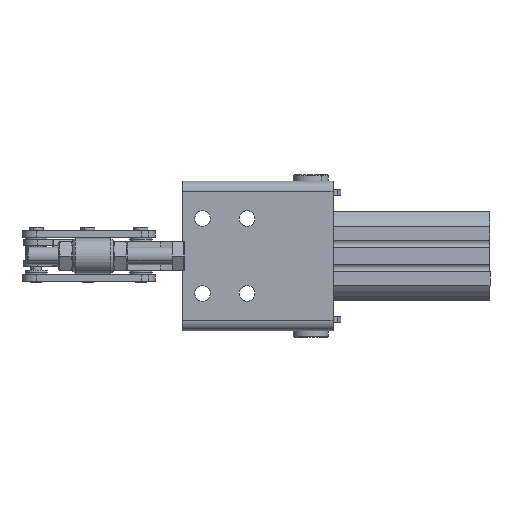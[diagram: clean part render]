
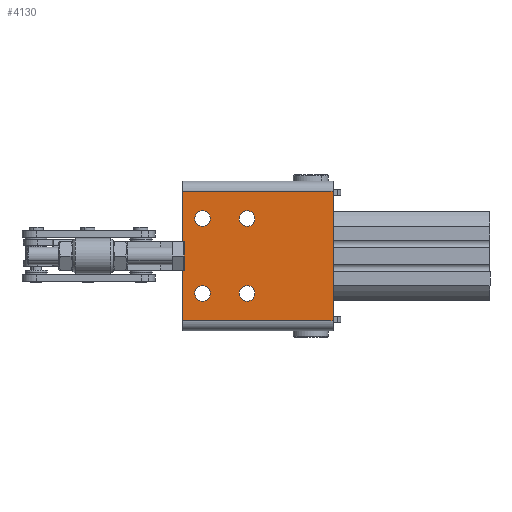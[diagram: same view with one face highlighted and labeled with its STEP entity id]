
A CAD part, left-side view. The second image highlights one B-rep face of the part: STEP entity #4130.
In plain terms, the highlighted planar face has unit normal (-1, 0, 0) as drawn and (0, -1, 0) by its records, which use the part's own axes.
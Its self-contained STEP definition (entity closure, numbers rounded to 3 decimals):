
#5 = CIRCLE ( 'NONE', #6698, 3.5 ) ;
#75 = CARTESIAN_POINT ( 'NONE',  ( -16.75, -3., -9. ) ) ;
#115 = CIRCLE ( 'NONE', #1582, 3.5 ) ;
#306 = CARTESIAN_POINT ( 'NONE',  ( 16.75, -3., -32.5 ) ) ;
#438 = DIRECTION ( 'NONE',  ( 0., 0., 1. ) ) ;
#517 = DIRECTION ( 'NONE',  ( 0., 0., 1. ) ) ;
#527 = LINE ( 'NONE', #3020, #12181 ) ;
#550 = ORIENTED_EDGE ( 'NONE', *, *, #8475, .T. ) ;
#697 = ORIENTED_EDGE ( 'NONE', *, *, #6566, .T. ) ;
#715 = ORIENTED_EDGE ( 'NONE', *, *, #13560, .T. ) ;
#781 = LINE ( 'NONE', #16510, #16495 ) ;
#920 = CARTESIAN_POINT ( 'NONE',  ( -29., -3., 0. ) ) ;
#981 = ORIENTED_EDGE ( 'NONE', *, *, #11746, .F. ) ;
#1090 = DIRECTION ( 'NONE',  ( 0., 1., 0. ) ) ;
#1470 = VERTEX_POINT ( 'NONE', #10534 ) ;
#1493 = CARTESIAN_POINT ( 'NONE',  ( 29., -3., -67.5 ) ) ;
#1582 = AXIS2_PLACEMENT_3D ( 'NONE', #18762, #9614, #517 ) ;
#1617 = DIRECTION ( 'NONE',  ( 0., 0., 1. ) ) ;
#1968 = CIRCLE ( 'NONE', #5409, 3.5 ) ;
#2252 = EDGE_CURVE ( 'NONE', #14979, #2798, #527, .T. ) ;
#2450 = LINE ( 'NONE', #8879, #7461 ) ;
#2472 = CIRCLE ( 'NONE', #15746, 3.5 ) ;
#2641 = AXIS2_PLACEMENT_3D ( 'NONE', #14337, #5195, #15878 ) ;
#2798 = VERTEX_POINT ( 'NONE', #13370 ) ;
#3020 = CARTESIAN_POINT ( 'NONE',  ( -90.75, -3., -67.5 ) ) ;
#3319 = VERTEX_POINT ( 'NONE', #13073 ) ;
#3517 = EDGE_LOOP ( 'NONE', ( #17115, #10147 ) ) ;
#4130 = ADVANCED_FACE ( 'NONE', ( #9962, #17609, #13548, #9479, #8791 ), #10195, .F. ) ;
#4197 = VERTEX_POINT ( 'NONE', #10259 ) ;
#5059 = VERTEX_POINT ( 'NONE', #6421 ) ;
#5195 = DIRECTION ( 'NONE',  ( 0., 1., 0. ) ) ;
#5409 = AXIS2_PLACEMENT_3D ( 'NONE', #7579, #18231, #9096 ) ;
#5703 = VECTOR ( 'NONE', #17168, 1000. ) ;
#5903 = DIRECTION ( 'NONE',  ( 0., 0., -1. ) ) ;
#6356 = EDGE_CURVE ( 'NONE', #3319, #1470, #15147, .T. ) ;
#6421 = CARTESIAN_POINT ( 'NONE',  ( 16.75, -3., -5.5 ) ) ;
#6460 = VERTEX_POINT ( 'NONE', #306 ) ;
#6467 = EDGE_LOOP ( 'NONE', ( #17759, #8484 ) ) ;
#6513 = VERTEX_POINT ( 'NONE', #15626 ) ;
#6566 = EDGE_CURVE ( 'NONE', #6513, #5059, #115, .T. ) ;
#6698 = AXIS2_PLACEMENT_3D ( 'NONE', #15945, #6804, #17489 ) ;
#6804 = DIRECTION ( 'NONE',  ( 0., 1., 0. ) ) ;
#6987 = CARTESIAN_POINT ( 'NONE',  ( 16.75, -3., -29. ) ) ;
#7294 = AXIS2_PLACEMENT_3D ( 'NONE', #18684, #9535, #438 ) ;
#7461 = VECTOR ( 'NONE', #18011, 1000. ) ;
#7520 = EDGE_CURVE ( 'NONE', #1470, #3319, #2472, .T. ) ;
#7579 = CARTESIAN_POINT ( 'NONE',  ( 16.75, -3., -29. ) ) ;
#7703 = DIRECTION ( 'NONE',  ( 0., 1., 0. ) ) ;
#8052 = AXIS2_PLACEMENT_3D ( 'NONE', #17789, #1090, #11731 ) ;
#8082 = AXIS2_PLACEMENT_3D ( 'NONE', #16838, #7703, #18360 ) ;
#8132 = EDGE_CURVE ( 'NONE', #14654, #6460, #1968, .T. ) ;
#8165 = EDGE_LOOP ( 'NONE', ( #13402, #981, #550, #13919 ) ) ;
#8469 = VERTEX_POINT ( 'NONE', #19567 ) ;
#8475 = EDGE_CURVE ( 'NONE', #8964, #2798, #781, .T. ) ;
#8484 = ORIENTED_EDGE ( 'NONE', *, *, #6356, .T. ) ;
#8522 = DIRECTION ( 'NONE',  ( 0., 0., 1. ) ) ;
#8791 = FACE_BOUND ( 'NONE', #12235, .T. ) ;
#8879 = CARTESIAN_POINT ( 'NONE',  ( 38.92, -3., 0. ) ) ;
#8964 = VERTEX_POINT ( 'NONE', #920 ) ;
#9096 = DIRECTION ( 'NONE',  ( 0., 0., 1. ) ) ;
#9282 = LINE ( 'NONE', #9549, #5703 ) ;
#9479 = FACE_BOUND ( 'NONE', #6467, .T. ) ;
#9535 = DIRECTION ( 'NONE',  ( 0., 1., 0. ) ) ;
#9549 = CARTESIAN_POINT ( 'NONE',  ( 29., -3., -5. ) ) ;
#9614 = DIRECTION ( 'NONE',  ( 0., 1., 0. ) ) ;
#9942 = CARTESIAN_POINT ( 'NONE',  ( 16.75, -3., -25.5 ) ) ;
#9962 = FACE_OUTER_BOUND ( 'NONE', #8165, .T. ) ;
#10147 = ORIENTED_EDGE ( 'NONE', *, *, #13587, .T. ) ;
#10195 = PLANE ( 'NONE',  #8052 ) ;
#10259 = CARTESIAN_POINT ( 'NONE',  ( -16.75, -3., -25.5 ) ) ;
#10534 = CARTESIAN_POINT ( 'NONE',  ( -16.75, -3., -5.5 ) ) ;
#10585 = ORIENTED_EDGE ( 'NONE', *, *, #17302, .T. ) ;
#10717 = DIRECTION ( 'NONE',  ( 0., 1., 0. ) ) ;
#10811 = EDGE_CURVE ( 'NONE', #8469, #14979, #9282, .T. ) ;
#11393 = EDGE_LOOP ( 'NONE', ( #18941, #10585 ) ) ;
#11532 = VERTEX_POINT ( 'NONE', #13001 ) ;
#11731 = DIRECTION ( 'NONE',  ( 0., 0., 1. ) ) ;
#11746 = EDGE_CURVE ( 'NONE', #8964, #8469, #2450, .T. ) ;
#12181 = VECTOR ( 'NONE', #15139, 1000. ) ;
#12235 = EDGE_LOOP ( 'NONE', ( #715, #697 ) ) ;
#12451 = CIRCLE ( 'NONE', #7294, 3.5 ) ;
#13001 = CARTESIAN_POINT ( 'NONE',  ( -16.75, -3., -32.5 ) ) ;
#13073 = CARTESIAN_POINT ( 'NONE',  ( -16.75, -3., -12.5 ) ) ;
#13370 = CARTESIAN_POINT ( 'NONE',  ( -29., -3., -67.5 ) ) ;
#13402 = ORIENTED_EDGE ( 'NONE', *, *, #10811, .F. ) ;
#13548 = FACE_BOUND ( 'NONE', #3517, .T. ) ;
#13560 = EDGE_CURVE ( 'NONE', #5059, #6513, #15730, .T. ) ;
#13587 = EDGE_CURVE ( 'NONE', #11532, #4197, #5, .T. ) ;
#13919 = ORIENTED_EDGE ( 'NONE', *, *, #2252, .F. ) ;
#14337 = CARTESIAN_POINT ( 'NONE',  ( 16.75, -3., -9. ) ) ;
#14654 = VERTEX_POINT ( 'NONE', #9942 ) ;
#14979 = VERTEX_POINT ( 'NONE', #1493 ) ;
#15139 = DIRECTION ( 'NONE',  ( -1., 0., 0. ) ) ;
#15147 = CIRCLE ( 'NONE', #8082, 3.5 ) ;
#15626 = CARTESIAN_POINT ( 'NONE',  ( 16.75, -3., -12.5 ) ) ;
#15730 = CIRCLE ( 'NONE', #2641, 3.5 ) ;
#15746 = AXIS2_PLACEMENT_3D ( 'NONE', #75, #10717, #1617 ) ;
#15878 = DIRECTION ( 'NONE',  ( 0., 0., 1. ) ) ;
#15945 = CARTESIAN_POINT ( 'NONE',  ( -16.75, -3., -29. ) ) ;
#16080 = AXIS2_PLACEMENT_3D ( 'NONE', #6987, #17656, #8522 ) ;
#16086 = CIRCLE ( 'NONE', #16080, 3.5 ) ;
#16495 = VECTOR ( 'NONE', #5903, 1000. ) ;
#16510 = CARTESIAN_POINT ( 'NONE',  ( -29., -3., -5. ) ) ;
#16838 = CARTESIAN_POINT ( 'NONE',  ( -16.75, -3., -9. ) ) ;
#17115 = ORIENTED_EDGE ( 'NONE', *, *, #19247, .T. ) ;
#17168 = DIRECTION ( 'NONE',  ( 0., 0., -1. ) ) ;
#17302 = EDGE_CURVE ( 'NONE', #6460, #14654, #16086, .T. ) ;
#17489 = DIRECTION ( 'NONE',  ( 0., 0., 1. ) ) ;
#17609 = FACE_BOUND ( 'NONE', #11393, .T. ) ;
#17656 = DIRECTION ( 'NONE',  ( 0., 1., 0. ) ) ;
#17759 = ORIENTED_EDGE ( 'NONE', *, *, #7520, .T. ) ;
#17789 = CARTESIAN_POINT ( 'NONE',  ( -38.92, -3., -5. ) ) ;
#18011 = DIRECTION ( 'NONE',  ( 1., 0., 0. ) ) ;
#18231 = DIRECTION ( 'NONE',  ( 0., 1., 0. ) ) ;
#18360 = DIRECTION ( 'NONE',  ( 0., 0., 1. ) ) ;
#18684 = CARTESIAN_POINT ( 'NONE',  ( -16.75, -3., -29. ) ) ;
#18762 = CARTESIAN_POINT ( 'NONE',  ( 16.75, -3., -9. ) ) ;
#18941 = ORIENTED_EDGE ( 'NONE', *, *, #8132, .T. ) ;
#19247 = EDGE_CURVE ( 'NONE', #4197, #11532, #12451, .T. ) ;
#19567 = CARTESIAN_POINT ( 'NONE',  ( 29., -3., 0. ) ) ;
